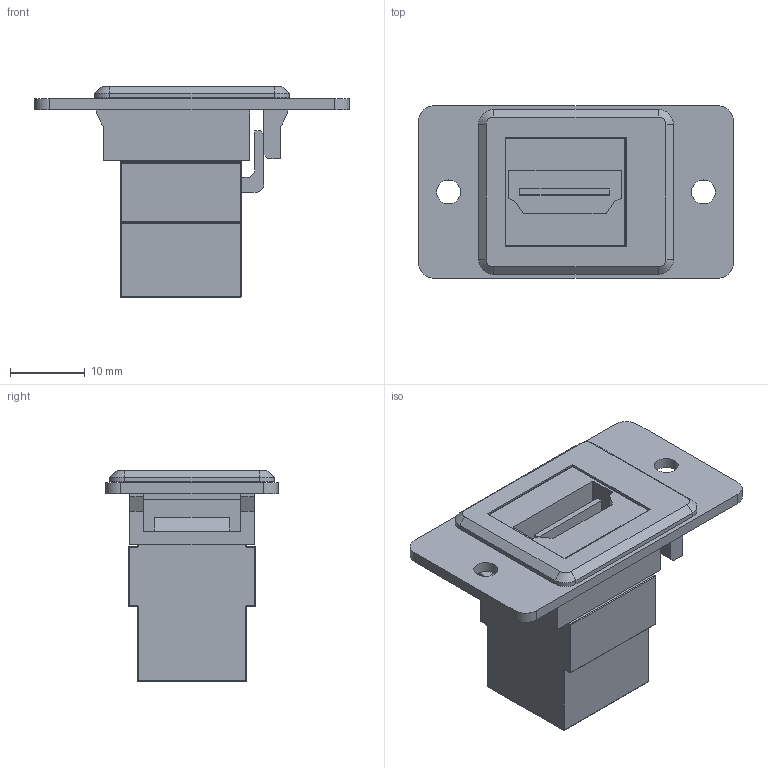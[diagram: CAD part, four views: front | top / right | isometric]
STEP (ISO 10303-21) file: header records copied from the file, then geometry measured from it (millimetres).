
FILE_DESCRIPTION(('FreeCAD Model'),'2;1');
FILE_NAME('Open CASCADE Shape Model','2026-04-24T13:18:42',(''),(''), 'Open CASCADE STEP processor 7.8','FreeCAD','Unknown');
FILE_SCHEMA(('AUTOMOTIVE_DESIGN { 1 0 10303 214 1 1 1 1 }'));
Length unit declared in the file: millimetre
Products named in the file (5): Unnamed; PMBZL_SL; SIM-BZALPL-SL; TB-037_3013BUS12xx_SD; SIM-HDMI-WH-S
Assembly tree (4 placements, depth 3):
  Unnamed
    PMBZL_SL
      SIM-BZALPL-SL
      TB-037_3013BUS12xx_SD
    SIM-HDMI-WH-S
Bounding box: 42 x 23 x 28.12 mm (x, y, z)
Volume: 7671.7 mm3; surface area: 6889.3 mm2
Topology: 3 solids, 3 shells, 220 faces, 577 edges, 350 vertices
Faces by surface type: bspline 67, plane 65, cylinder 64, sphere 16, torus 8
Full cylindrical faces by diameter (mm): 3.2 x2
Entity records: 7494 total; most frequent: CARTESIAN_POINT 2553, ORIENTED_EDGE 1122, DIRECTION 817, EDGE_CURVE 561, VERTEX_POINT 350, AXIS2_PLACEMENT_3D 294, FACE_BOUND 235, EDGE_LOOP 235
